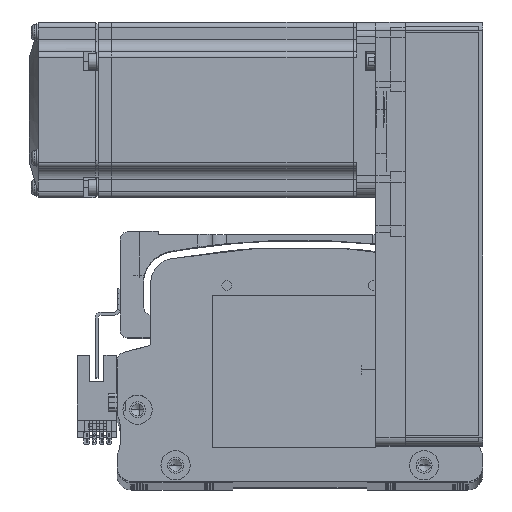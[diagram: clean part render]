
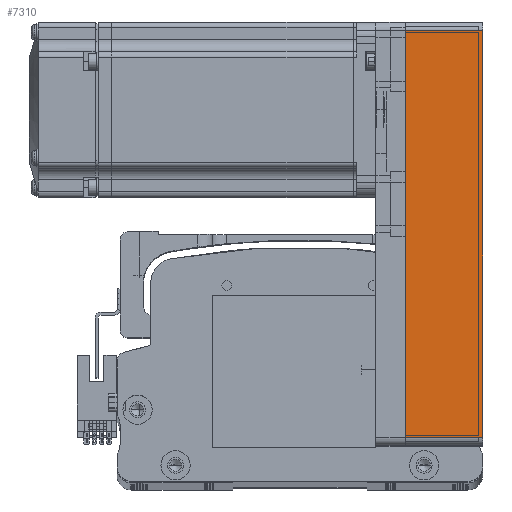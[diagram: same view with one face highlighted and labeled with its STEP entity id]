
A CAD part, top view. The second image highlights one B-rep face of the part: STEP entity #7310.
In plain terms, the highlighted planar face has unit normal (0, 0, 1) as drawn and (0, 1, 0) by its records, which use the part's own axes.
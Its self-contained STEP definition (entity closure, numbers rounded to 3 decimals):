
#786 = ORIENTED_EDGE ( 'NONE', *, *, #18420, .T. ) ;
#1016 = VERTEX_POINT ( 'NONE', #46678 ) ;
#2184 = ORIENTED_EDGE ( 'NONE', *, *, #72512, .F. ) ;
#3287 = LINE ( 'NONE', #85712, #71523 ) ;
#3323 = CARTESIAN_POINT ( 'NONE',  ( 72.5, 30., 26.5 ) ) ;
#7310 = ADVANCED_FACE ( 'NONE', ( #8601 ), #83193, .F. ) ;
#7736 = LINE ( 'NONE', #77493, #9852 ) ;
#8601 = FACE_OUTER_BOUND ( 'NONE', #19343, .T. ) ;
#9852 = VECTOR ( 'NONE', #84238, 1000. ) ;
#10054 = DIRECTION ( 'NONE',  ( 1., 0., 0. ) ) ;
#11873 = CARTESIAN_POINT ( 'NONE',  ( 69.5, 30., 0. ) ) ;
#14947 = DIRECTION ( 'NONE',  ( 0., 0., 1. ) ) ;
#18420 = EDGE_CURVE ( 'NONE', #78353, #79609, #3287, .T. ) ;
#18993 = DIRECTION ( 'NONE',  ( 0., 0., -1. ) ) ;
#19343 = EDGE_LOOP ( 'NONE', ( #27227, #45938, #2184, #786 ) ) ;
#25856 = LINE ( 'NONE', #55025, #77177 ) ;
#27227 = ORIENTED_EDGE ( 'NONE', *, *, #41064, .T. ) ;
#31509 = CARTESIAN_POINT ( 'NONE',  ( 72.5, 30., 26.5 ) ) ;
#40428 = CARTESIAN_POINT ( 'NONE',  ( 69.5, 30., 26.5 ) ) ;
#41064 = EDGE_CURVE ( 'NONE', #79609, #85353, #7736, .T. ) ;
#44966 = DIRECTION ( 'NONE',  ( -1., 0., 0. ) ) ;
#45938 = ORIENTED_EDGE ( 'NONE', *, *, #63739, .T. ) ;
#46678 = CARTESIAN_POINT ( 'NONE',  ( -69.5, 30., 26.5 ) ) ;
#50135 = DIRECTION ( 'NONE',  ( 0., -1., 0. ) ) ;
#50267 = VECTOR ( 'NONE', #44966, 1000. ) ;
#54960 = AXIS2_PLACEMENT_3D ( 'NONE', #3323, #50135, #10054 ) ;
#55025 = CARTESIAN_POINT ( 'NONE',  ( -69.5, 30., 26.5 ) ) ;
#63739 = EDGE_CURVE ( 'NONE', #85353, #1016, #25856, .T. ) ;
#71523 = VECTOR ( 'NONE', #18993, 1000. ) ;
#72512 = EDGE_CURVE ( 'NONE', #78353, #1016, #85867, .T. ) ;
#77177 = VECTOR ( 'NONE', #14947, 1000. ) ;
#77493 = CARTESIAN_POINT ( 'NONE',  ( 72.5, 30., 0. ) ) ;
#78353 = VERTEX_POINT ( 'NONE', #40428 ) ;
#79609 = VERTEX_POINT ( 'NONE', #11873 ) ;
#82638 = CARTESIAN_POINT ( 'NONE',  ( -69.5, 30., 0. ) ) ;
#83193 = PLANE ( 'NONE',  #54960 ) ;
#84238 = DIRECTION ( 'NONE',  ( -1., 0., 0. ) ) ;
#85353 = VERTEX_POINT ( 'NONE', #82638 ) ;
#85712 = CARTESIAN_POINT ( 'NONE',  ( 69.5, 30., 26.5 ) ) ;
#85867 = LINE ( 'NONE', #31509, #50267 ) ;
